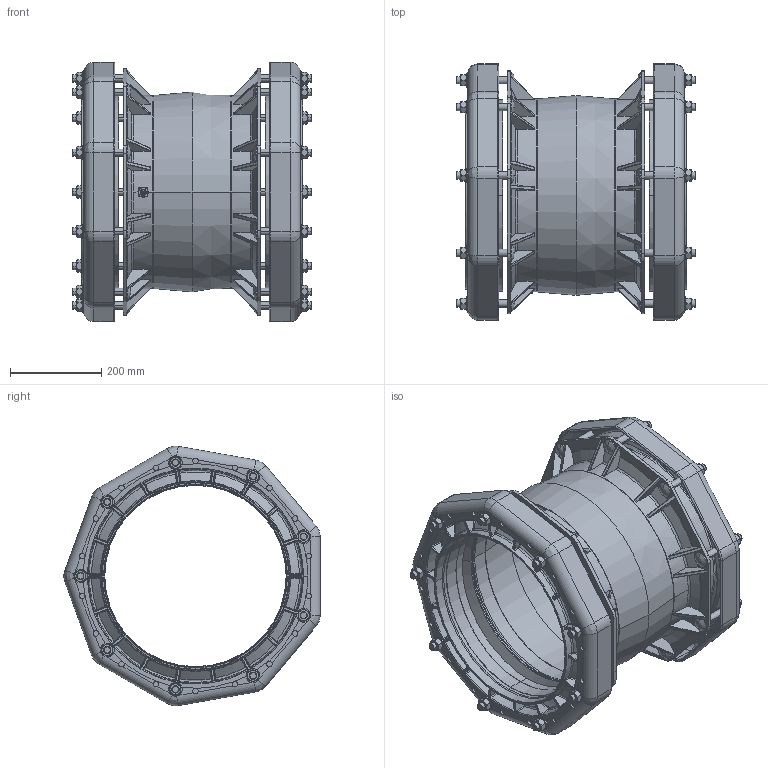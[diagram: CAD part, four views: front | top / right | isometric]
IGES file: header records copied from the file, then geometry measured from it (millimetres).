
Global section: file name: No Iges File Name specified; native system: AutoDesk Inventor R12.0; preprocessor: AutoDesk Inventor Iges Exporter R12.0; date: 20120502.102042; units: millimetre
Bounding box: 525 x 560.99 x 568.53 mm (x, y, z)
Volume: 10008451.5 mm3; surface area: 2809181.6 mm2
Topology: 1 solids, 1 shells, 3101 faces, 8247 edges, 4983 vertices
Faces by surface type: bspline 1096, plane 720, cylinder 472, revolution 373, cone 340, torus 100
